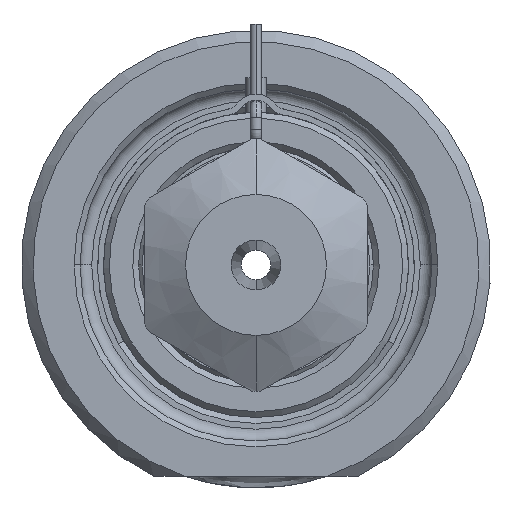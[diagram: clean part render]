
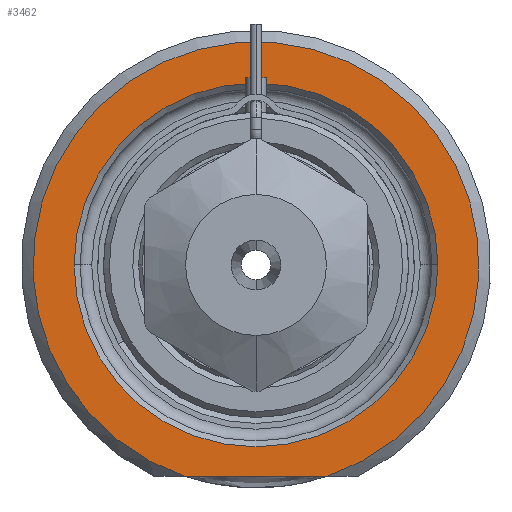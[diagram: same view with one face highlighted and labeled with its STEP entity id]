
A CAD part, front view. The second image highlights one B-rep face of the part: STEP entity #3462.
In plain terms, the highlighted planar face has unit normal (0, -1, 0).
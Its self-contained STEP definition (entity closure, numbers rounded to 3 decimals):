
#1=DIRECTION('',(1.,0.,0.));
#2=VECTOR('',#1,12.166);
#3=CARTESIAN_POINT('',(-6.083,0.,-18.));
#4=LINE('',#3,#2);
#5=CARTESIAN_POINT('',(0.,0.,0.));
#6=DIRECTION('',(0.,1.,0.));
#7=DIRECTION('',(-1.,0.,0.));
#8=AXIS2_PLACEMENT_3D('',#5,#6,#7);
#10=CARTESIAN_POINT('',(0.,0.,0.));
#11=DIRECTION('',(0.,1.,0.));
#12=DIRECTION('',(1.,0.,0.));
#13=AXIS2_PLACEMENT_3D('',#10,#11,#12);
#264=CARTESIAN_POINT('',(0.,0.,0.));
#265=DIRECTION('',(0.,-1.,0.));
#266=DIRECTION('',(0.32,0.,-0.947));
#267=AXIS2_PLACEMENT_3D('',#264,#265,#266);
#2903=CARTESIAN_POINT('',(-15.5,0.,0.));
#2904=CARTESIAN_POINT('',(15.5,0.,0.));
#2905=VERTEX_POINT('',#2903);
#2906=VERTEX_POINT('',#2904);
#2947=CARTESIAN_POINT('',(-6.083,0.,-18.));
#2948=CARTESIAN_POINT('',(6.083,0.,-18.));
#2949=VERTEX_POINT('',#2947);
#2950=VERTEX_POINT('',#2948);
#3445=CARTESIAN_POINT('',(0.,0.,0.));
#3446=DIRECTION('',(0.,-1.,0.));
#3447=DIRECTION('',(1.,0.,0.));
#3448=AXIS2_PLACEMENT_3D('',#3445,#3446,#3447);
#3449=PLANE('',#3448);
#3451=ORIENTED_EDGE('',*,*,#3450,.F.);
#3453=ORIENTED_EDGE('',*,*,#3452,.F.);
#3454=EDGE_LOOP('',(#3451,#3453));
#3455=FACE_OUTER_BOUND('',#3454,.F.);
#3457=ORIENTED_EDGE('',*,*,#3456,.F.);
#3459=ORIENTED_EDGE('',*,*,#3458,.F.);
#3460=EDGE_LOOP('',(#3457,#3459));
#3461=FACE_BOUND('',#3460,.F.);
#3462=ADVANCED_FACE('',(#3455,#3461),#3449,.T.);
#9=CIRCLE('',#8,15.5);
#14=CIRCLE('',#13,15.5);
#268=CIRCLE('',#267,19.);
#3450=EDGE_CURVE('',#2949,#2950,#4,.T.);
#3452=EDGE_CURVE('',#2950,#2949,#268,.T.);
#3456=EDGE_CURVE('',#2905,#2906,#9,.T.);
#3458=EDGE_CURVE('',#2906,#2905,#14,.T.);
